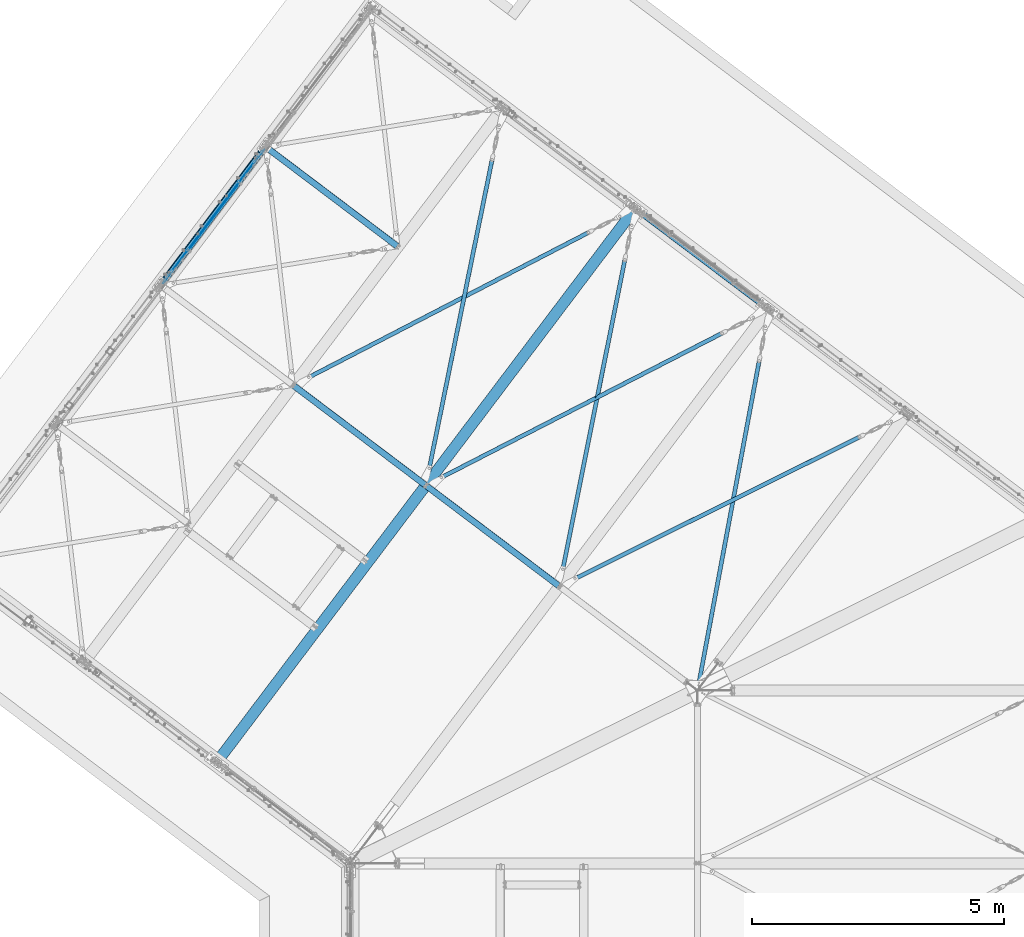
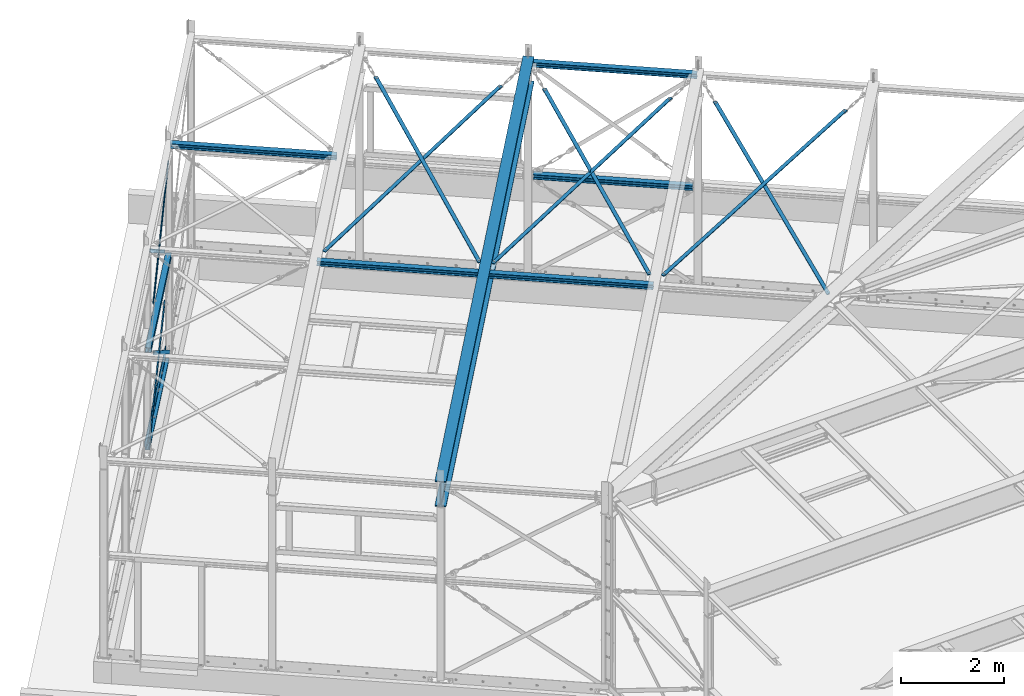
# One storey, part 23 of 476: 11 members, 7 beams, 56 openings.
"""IFC2X3 building model written with IfcOpenShell, lengths in millimetres."""

from ifc_helpers import new_model, entity, si_unit, converted_unit, frame, frame_2d, origin, origin_with_axes, origin_2d, origin_2d_with_axis, place, context, project, spatial, polyline, rectangle, circle, i_section, l_section, outline, extrude, clip, halfspace, material, element, save


model = new_model("IFC2X3")

# Units and contexts
model_context = context("Model", 3, precision=1e-09, world=origin_with_axes())
ifc_project = project(units=[si_unit("LENGTHUNIT", "METRE", prefix="MILLI"), si_unit("AREAUNIT", "SQUARE_METRE"), si_unit("VOLUMEUNIT", "CUBIC_METRE"), converted_unit("PLANEANGLEUNIT", "DEGREE", entity("IfcPlaneAngleMeasure", 0.01745329), si_unit("PLANEANGLEUNIT", "RADIAN"), dimensions=[0, 0, 0, 0, 0, 0, 0])], contexts=[model_context])

# Site, building, storey
site_placement = place(None, origin_with_axes())
site = spatial("IfcSite", under=ifc_project, at=site_placement, Name="mKR Teilneubau & Sanierung BA1 - Ostfildern", CompositionType="ELEMENT")
building_placement = place(site_placement, origin_with_axes())
building = spatial("IfcBuilding", under=site, at=building_placement, Name="Struktur 1", CompositionType="ELEMENT")
storey_placement = place(building_placement, origin_with_axes())
storey = spatial("IfcBuildingStorey", under=building, at=storey_placement, Name="Default Storey", CompositionType="ELEMENT", Elevation=0.0)

# Member, openings
ifc_material = material(Name="S235JR")
member_1_placement = place(None, frame((9726.36515466, 1840.92350468, 5436.832593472), z_axis=(0.199397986, 0.979543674, 0.027104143), x_axis=(0.018101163, 0.023972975, -0.99954872)))
member_1 = element("IfcMember", 1, at=member_1_placement, inside=storey, material=ifc_material, Name="-", ObjectType="-", context=model_context, shape_type="SweptSolid", body=[
    extrude(rectangle(XDim=15.0, YDim=80.0, at=origin_2d()), origin(), (0.0, 0.0, 1.0), 6383.478038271),
])
opening_1_placement = place(member_1_placement, frame((8.0, 0.0, 74.500999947), z_axis=(1.0, 0.0, 0.0), x_axis=(0.0, 1.0, 0.0)))
element("IfcOpeningElement", 2, at=opening_1_placement, cuts=member_1, ObjectType="Opening", context=model_context, shape_type="SweptSolid", body=[
    extrude(circle(Radius=14.501, at=frame_2d((0.0, -14.501), x_axis=(1.0, 0.0))), origin(), (0.0, 0.0, -1.0), 16.0),
])
opening_2_placement = place(member_1_placement, frame((8.000001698, -0.227777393, 6308.978854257), z_axis=(1.0, 2.06e-07, -1.03e-07), x_axis=(-2.06e-07, 1.0, 0.0)))
element("IfcOpeningElement", 3, at=opening_2_placement, cuts=member_1, ObjectType="Opening", context=model_context, shape_type="SweptSolid", body=[
    extrude(circle(Radius=14.501, at=frame_2d((0.229488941, 14.499183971), x_axis=(1.0, 0.0))), origin(), (0.0, 0.0, -1.0), 16.00000635),
])

member_2_placement = place(None, frame((12379.558941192, -163.675000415, 5436.821127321), z_axis=(0.196382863, 0.980153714, 0.027064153), x_axis=(0.01810112, 0.023972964, -0.999548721)))
member_2 = element("IfcMember", 4, at=member_2_placement, inside=storey, material=ifc_material, Name="-", ObjectType="-", context=model_context, shape_type="SweptSolid", body=[
    extrude(rectangle(XDim=15.0, YDim=80.0, at=origin_2d()), origin(), (0.0, 0.0, 1.0), 6394.783932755),
])
opening_3_placement = place(member_2_placement, frame((8.000001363, -0.182876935, 6320.284111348), z_axis=(1.0, 1.66e-07, 0.0), x_axis=(-1.66e-07, 1.0, 0.0)))
element("IfcOpeningElement", 5, at=opening_3_placement, cuts=member_2, ObjectType="Opening", context=model_context, shape_type="SweptSolid", body=[
    extrude(circle(Radius=14.501, at=frame_2d((0.184881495, 14.499821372), x_axis=(1.0, 0.0))), origin(), (0.0, 0.0, -1.0), 16.000005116),
])
opening_4_placement = place(member_2_placement, frame((8.0, 0.0, 74.500999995), z_axis=(1.0, 0.0, 0.0), x_axis=(0.0, 1.0, 0.0)))
element("IfcOpeningElement", 6, at=opening_4_placement, cuts=member_2, ObjectType="Opening", context=model_context, shape_type="SweptSolid", body=[
    extrude(circle(Radius=14.501, at=frame_2d((0.0, -14.501), x_axis=(1.0, 0.0))), origin(), (0.0, 0.0, -1.0), 16.0),
])

member_3_placement = place(None, frame((15080.524211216, -2442.8509286, 5408.079613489), z_axis=(0.183867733, 0.982582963, 0.026895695), x_axis=(0.018100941, 0.023972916, -0.999548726)))
member_3 = element("IfcMember", 7, at=member_3_placement, inside=storey, material=ifc_material, Name="-", ObjectType="-", context=model_context, shape_type="SweptSolid", body=[
    extrude(rectangle(XDim=15.0, YDim=80.0, at=origin_2d()), origin(), (0.0, 0.0, 1.0), 6655.319144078),
])
opening_5_placement = place(member_3_placement, frame((-7.5, -40.0, 0.0), z_axis=(-1.0, 0.0, 0.0), x_axis=(0.0, 0.0, 1.0)))
element("IfcOpeningElement", 8, at=opening_5_placement, cuts=member_3, ObjectType="Opening", context=model_context, shape_type="SweptSolid", body=[
    extrude(outline(polyline([(0.0, 0.0), (45.0, 0.0), (0.0, 25.0), (0.0, 0.0)])), origin(), (0.0, 0.0, -1.0), 15.0),
])
opening_6_placement = place(member_3_placement, frame((-8.0, 0.0, 75.999), z_axis=(-1.0, 0.0, 0.0), x_axis=(0.0, -1.0, 0.0)))
element("IfcOpeningElement", 9, at=opening_6_placement, cuts=member_3, ObjectType="Opening", context=model_context, shape_type="SweptSolid", body=[
    extrude(circle(Radius=9.001, at=frame_2d((0.0, 9.001), x_axis=(1.0, 0.0))), origin(), (0.0, 0.0, -1.0), 16.0),
])
opening_7_placement = place(member_3_placement, frame((-8.0, 0.0, 25.999), z_axis=(-1.0, 0.0, 0.0), x_axis=(0.0, -1.0, 0.0)))
element("IfcOpeningElement", 10, at=opening_7_placement, cuts=member_3, ObjectType="Opening", context=model_context, shape_type="SweptSolid", body=[
    extrude(circle(Radius=9.001, at=frame_2d((0.0, 9.001), x_axis=(1.0, 0.0))), origin(), (0.0, 0.0, -1.0), 16.0),
])
opening_8_placement = place(member_3_placement, frame((8.0, 0.0, 6580.818144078), z_axis=(1.0, 0.0, 0.0), x_axis=(0.0, 1.0, 0.0)))
element("IfcOpeningElement", 11, at=opening_8_placement, cuts=member_3, ObjectType="Opening", context=model_context, shape_type="SweptSolid", body=[
    extrude(circle(Radius=14.501, at=frame_2d((0.0, 14.501), x_axis=(1.0, 0.0))), origin(), (0.0, 0.0, -1.0), 16.0),
])

member_4_placement = place(None, frame((5213.481060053, -4338.507195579, 4959.248116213), z_axis=(0.602462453, 0.797581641, 0.030041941), x_axis=(-0.797941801, 0.602734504, 0.0)))
member_4 = element("IfcMember", 12, at=member_4_placement, inside=storey, material=ifc_material, Name="-", ObjectType="-", context=model_context, shape_type="Clipping", body=[
    clip(clip(extrude(i_section(OverallWidth=220.0, OverallDepth=600.0, WebThickness=12.0, FlangeThickness=19.0, FilletRadius=24.0, at=origin_2d()), origin(), (0.0, 0.0, 1.0), 14725.706361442), halfspace(frame((6775.022448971, -4970.169003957, 288.847755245), z_axis=(0.0, -0.030041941, 0.999548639), x_axis=(1.0, 0.0, 0.0)), True)), halfspace(frame((6775.022448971, -5388.142475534, 14195.565970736), z_axis=(0.0, 0.030041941, -0.999548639), x_axis=(-1.0, 0.0, 0.0)), True)),
])
opening_9_placement = place(member_4_placement, frame((-6.5, 183.024644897, 7433.369314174), z_axis=(1.0, 0.0, 0.0), x_axis=(0.0, 1.0, 1.4557e-05)))
element("IfcOpeningElement", 13, at=opening_9_placement, cuts=member_4, ObjectType="Opening", context=model_context, shape_type="SweptSolid", body=[
    extrude(circle(Radius=7.001, at=origin_2d_with_axis()), origin(), (0.0, 0.0, 1.0), 13.0),
])
opening_10_placement = place(member_4_placement, frame((-6.5, 183.02551832, 7373.36931418), z_axis=(1.0, 0.0, 0.0), x_axis=(0.0, 1.0, 1.4557e-05)))
element("IfcOpeningElement", 14, at=opening_10_placement, cuts=member_4, ObjectType="Opening", context=model_context, shape_type="SweptSolid", body=[
    extrude(circle(Radius=7.001, at=origin_2d_with_axis()), origin(), (0.0, 0.0, 1.0), 13.0),
])
opening_11_placement = place(member_4_placement, frame((6.5, 183.027078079, 14331.485111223), z_axis=(-1.0, 0.0, 0.0), x_axis=(0.0, 1.0, 0.0)))
element("IfcOpeningElement", 15, at=opening_11_placement, cuts=member_4, ObjectType="Opening", context=model_context, shape_type="SweptSolid", body=[
    extrude(circle(Radius=7.001, at=origin_2d_with_axis()), origin(), (0.0, 0.0, 1.0), 13.0),
])
opening_12_placement = place(member_4_placement, frame((6.5, 183.027078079, 14281.485111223), z_axis=(-1.0, 0.0, 0.0), x_axis=(0.0, 1.0, 0.0)))
element("IfcOpeningElement", 16, at=opening_12_placement, cuts=member_4, ObjectType="Opening", context=model_context, shape_type="SweptSolid", body=[
    extrude(circle(Radius=7.001, at=origin_2d_with_axis()), origin(), (0.0, 0.0, 1.0), 13.0),
])
opening_13_placement = place(member_4_placement, frame((-6.5, 183.02707995, 525.253577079), z_axis=(1.0, 0.0, 0.0), x_axis=(0.0, 1.0, 0.0)))
element("IfcOpeningElement", 17, at=opening_13_placement, cuts=member_4, ObjectType="Opening", context=model_context, shape_type="SweptSolid", body=[
    extrude(circle(Radius=7.001, at=origin_2d_with_axis()), origin(), (0.0, 0.0, 1.0), 13.0),
])
opening_14_placement = place(member_4_placement, frame((-6.5, 183.02707995, 475.253577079), z_axis=(1.0, 0.0, 0.0), x_axis=(0.0, 1.0, 0.0)))
element("IfcOpeningElement", 18, at=opening_14_placement, cuts=member_4, ObjectType="Opening", context=model_context, shape_type="SweptSolid", body=[
    extrude(circle(Radius=7.001, at=origin_2d_with_axis()), origin(), (0.0, 0.0, 1.0), 13.0),
])
opening_15_placement = place(member_4_placement, frame((37.999, -300.5, 14318.867080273), z_axis=(0.0, -1.0, 0.0), x_axis=(1.0, 0.0, 0.0)))
element("IfcOpeningElement", 19, at=opening_15_placement, cuts=member_4, ObjectType="Opening", context=model_context, shape_type="SweptSolid", body=[
    extrude(circle(Radius=7.001, at=frame_2d((7.001, 0.0), x_axis=(1.0, 0.0))), origin(), (0.0, 0.0, -1.0), 20.0),
])
opening_16_placement = place(member_4_placement, frame((37.999, -300.5, 14263.867080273), z_axis=(0.0, -1.0, 0.0), x_axis=(1.0, 0.0, 0.0)))
element("IfcOpeningElement", 20, at=opening_16_placement, cuts=member_4, ObjectType="Opening", context=model_context, shape_type="SweptSolid", body=[
    extrude(circle(Radius=7.001, at=frame_2d((7.001, 0.0), x_axis=(1.0, 0.0))), origin(), (0.0, 0.0, -1.0), 20.0),
])
opening_17_placement = place(member_4_placement, frame((-52.001, -300.5, 14263.867080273), z_axis=(0.0, -1.0, 0.0), x_axis=(1.0, 0.0, 0.0)))
element("IfcOpeningElement", 21, at=opening_17_placement, cuts=member_4, ObjectType="Opening", context=model_context, shape_type="SweptSolid", body=[
    extrude(circle(Radius=7.001, at=frame_2d((7.001, 0.0), x_axis=(1.0, 0.0))), origin(), (0.0, 0.0, -1.0), 20.0),
])
opening_18_placement = place(member_4_placement, frame((-52.001, -300.5, 14318.867080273), z_axis=(0.0, -1.0, 0.0), x_axis=(1.0, 0.0, 0.0)))
element("IfcOpeningElement", 22, at=opening_18_placement, cuts=member_4, ObjectType="Opening", context=model_context, shape_type="SweptSolid", body=[
    extrude(circle(Radius=7.001, at=frame_2d((7.001, 0.0), x_axis=(1.0, 0.0))), origin(), (0.0, 0.0, -1.0), 20.0),
])
opening_19_placement = place(member_4_placement, frame((-6.5, 247.888062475, 14352.955309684), z_axis=(1.0, 0.0, 0.0), x_axis=(0.0, 0.030041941, -0.999548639)))
element("IfcOpeningElement", 23, at=opening_19_placement, cuts=member_4, ObjectType="Opening", context=model_context, shape_type="SweptSolid", body=[
    extrude(circle(Radius=7.001, at=origin_2d_with_axis()), origin(), (0.0, 0.0, 1.0), 13.0),
])
opening_20_placement = place(member_4_placement, frame((-6.5, -247.888062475, 14338.054506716), z_axis=(1.0, 0.0, 0.0), x_axis=(0.0, 0.030041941, -0.999548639)))
element("IfcOpeningElement", 24, at=opening_20_placement, cuts=member_4, ObjectType="Opening", context=model_context, shape_type="SweptSolid", body=[
    extrude(circle(Radius=7.001, at=origin_2d_with_axis()), origin(), (0.0, 0.0, 1.0), 13.0),
])
opening_21_placement = place(member_4_placement, frame((-37.999, -300.5, 512.635427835), z_axis=(0.0, -1.0, 0.0), x_axis=(1.0, 0.0, 0.0)))
element("IfcOpeningElement", 25, at=opening_21_placement, cuts=member_4, ObjectType="Opening", context=model_context, shape_type="SweptSolid", body=[
    extrude(circle(Radius=7.001, at=frame_2d((-7.001, 0.0), x_axis=(1.0, 0.0))), origin(), (0.0, 0.0, -1.0), 20.0),
])
opening_22_placement = place(member_4_placement, frame((52.001, -300.5, 457.635427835), z_axis=(0.0, -1.0, 0.0), x_axis=(1.0, 0.0, 0.0)))
element("IfcOpeningElement", 26, at=opening_22_placement, cuts=member_4, ObjectType="Opening", context=model_context, shape_type="SweptSolid", body=[
    extrude(circle(Radius=7.001, at=frame_2d((-7.001, 0.0), x_axis=(1.0, 0.0))), origin(), (0.0, 0.0, -1.0), 20.0),
])
opening_23_placement = place(member_4_placement, frame((52.001, -300.5, 512.635427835), z_axis=(0.0, -1.0, 0.0), x_axis=(1.0, 0.0, 0.0)))
element("IfcOpeningElement", 27, at=opening_23_placement, cuts=member_4, ObjectType="Opening", context=model_context, shape_type="SweptSolid", body=[
    extrude(circle(Radius=7.001, at=frame_2d((-7.001, 0.0), x_axis=(1.0, 0.0))), origin(), (0.0, 0.0, -1.0), 20.0),
])
opening_24_placement = place(member_4_placement, frame((-37.999, -300.5, 457.635427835), z_axis=(0.0, -1.0, 0.0), x_axis=(1.0, 0.0, 0.0)))
element("IfcOpeningElement", 28, at=opening_24_placement, cuts=member_4, ObjectType="Opening", context=model_context, shape_type="SweptSolid", body=[
    extrude(circle(Radius=7.001, at=frame_2d((-7.001, 0.0), x_axis=(1.0, 0.0))), origin(), (0.0, 0.0, -1.0), 20.0),
])
opening_25_placement = place(member_4_placement, frame((6.5, 247.888062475, 457.683526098), z_axis=(-1.0, 0.0, 0.0), x_axis=(0.0, -0.030041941, 0.999548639)))
element("IfcOpeningElement", 29, at=opening_25_placement, cuts=member_4, ObjectType="Opening", context=model_context, shape_type="SweptSolid", body=[
    extrude(circle(Radius=7.001, at=origin_2d_with_axis()), origin(), (0.0, 0.0, 1.0), 13.0),
])
opening_26_placement = place(member_4_placement, frame((6.5, -247.888062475, 442.782723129), z_axis=(-1.0, 0.0, 0.0), x_axis=(0.0, -0.030041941, 0.999548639)))
element("IfcOpeningElement", 30, at=opening_26_placement, cuts=member_4, ObjectType="Opening", context=model_context, shape_type="SweptSolid", body=[
    extrude(circle(Radius=7.001, at=origin_2d_with_axis()), origin(), (0.0, 0.0, 1.0), 13.0),
])

# Beam
beam_1_placement = place(None, frame((6420.193752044, 8340.616325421, 5468.294697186), z_axis=(-0.797941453, 0.602734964, 0.0), x_axis=(-0.602463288, -0.797581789, -0.03002126)))
element("IfcBeam", 31, at=beam_1_placement, inside=storey, material=ifc_material, Name="-", ObjectType="-", context=model_context, shape_type="Clipping", body=[
    clip(clip(extrude(i_section(OverallWidth=120.0, OverallDepth=114.0, WebThickness=5.0, FlangeThickness=8.0, FilletRadius=12.0, at=origin_2d()), origin(), (0.0, 0.0, -1.0), 3462.017365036), halfspace(frame((10684.417833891, -5149.856194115, -3361.263843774), z_axis=(5.77e-07, 0.0, 1.0), x_axis=(0.99954926, 0.03002126, -5.77e-07)), True)), halfspace(frame((10684.419716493, -5149.856194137, -98.065871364), z_axis=(-5.77e-07, 0.0, -1.0), x_axis=(-0.99954926, -0.03002126, 5.77e-07)), True)),
])

# Beam, openings
beam_2_placement = place(None, frame((4411.606970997, 5634.459654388, 594.499999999), z_axis=(-0.602734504, -0.797941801, 0.0), x_axis=(0.797941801, -0.602734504, 0.0)))
beam_2 = element("IfcBeam", 32, at=beam_2_placement, inside=storey, material=ifc_material, Name="-", ObjectType="-", context=model_context, shape_type="SweptSolid", body=[
    extrude(l_section(Depth=250.0, Width=90.0, Thickness=10.0, FilletRadius=15.0, EdgeRadius=7.5, at=frame_2d((30.5, 29.4))), origin(), (0.0, 0.0, -1.0), 3290.000000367),
])
opening_27_placement = place(beam_2_placement, frame((-115.7, -94.5, 0.0), z_axis=(1.0, 0.0, 0.0), x_axis=(0.0, 0.0, -1.0)))
element("IfcOpeningElement", 33, at=opening_27_placement, cuts=beam_2, ObjectType="Opening", context=model_context, shape_type="SweptSolid", body=[
    extrude(outline(polyline([(85.001, 120.001), (-50.001, 120.001), (-50.001, -50.001), (85.001, -50.001), (85.001, 120.001)])), origin(), (0.0, 0.0, 1.0), 290.2),
])
opening_28_placement = place(beam_2_placement, frame((-115.7, -94.5, 0.0), z_axis=(1.0, 0.0, 0.0), x_axis=(0.0, 0.0, -1.0)))
element("IfcOpeningElement", 34, at=opening_28_placement, cuts=beam_2, ObjectType="Opening", context=model_context, shape_type="SweptSolid", body=[
    extrude(outline(polyline([(3204.999000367, -50.001), (3349.092321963, -50.001), (3349.092321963, 120.001), (3204.999000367, 120.001), (3204.999000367, -50.001)])), origin(), (0.0, 0.0, 1.0), 290.2),
])
opening_29_placement = place(beam_2_placement, frame((34.4, -95.0, -2113.999000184), z_axis=(0.0, -1.0, 0.0), x_axis=(1.0, 0.0, 0.0)))
element("IfcOpeningElement", 35, at=opening_29_placement, cuts=beam_2, ObjectType="Opening", context=model_context, shape_type="SweptSolid", body=[
    extrude(circle(Radius=6.001, at=frame_2d((0.0, -6.001), x_axis=(1.0, 0.0))), origin(), (0.0, 0.0, -1.0), 11.000000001),
])
opening_30_placement = place(beam_2_placement, frame((34.4, -95.0, -1163.999000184), z_axis=(0.0, -1.0, 0.0), x_axis=(1.0, 0.0, 0.0)))
element("IfcOpeningElement", 36, at=opening_30_placement, cuts=beam_2, ObjectType="Opening", context=model_context, shape_type="SweptSolid", body=[
    extrude(circle(Radius=6.001, at=frame_2d((0.0, -6.001), x_axis=(1.0, 0.0))), origin(), (0.0, 0.0, -1.0), 11.000000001),
])
opening_31_placement = place(beam_2_placement, frame((34.4, -95.0, -3063.999000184), z_axis=(0.0, -1.0, 0.0), x_axis=(1.0, 0.0, 0.0)))
element("IfcOpeningElement", 37, at=opening_31_placement, cuts=beam_2, ObjectType="Opening", context=model_context, shape_type="SweptSolid", body=[
    extrude(circle(Radius=6.001, at=frame_2d((0.0, -6.001), x_axis=(1.0, 0.0))), origin(), (0.0, 0.0, -1.0), 11.000000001),
])
opening_32_placement = place(beam_2_placement, frame((34.4, -95.000000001, -213.999000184), z_axis=(0.0, -1.0, 0.0), x_axis=(1.0, 0.0, 0.0)))
element("IfcOpeningElement", 38, at=opening_32_placement, cuts=beam_2, ObjectType="Opening", context=model_context, shape_type="SweptSolid", body=[
    extrude(circle(Radius=6.001, at=frame_2d((0.0, -6.001), x_axis=(1.0, 0.0))), origin(), (0.0, 0.0, -1.0), 11.000000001),
])
opening_33_placement = place(beam_2_placement, frame((-5.1, 13.5, -1645.000000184), z_axis=(-1.0, 0.0, 0.0), x_axis=(0.0, 0.0, 1.0)))
element("IfcOpeningElement", 39, at=opening_33_placement, cuts=beam_2, ObjectType="Opening", context=model_context, shape_type="SweptSolid", body=[
    extrude(circle(Radius=7.001, at=frame_2d((300.0, 0.0), x_axis=(1.0, 0.0))), origin(), (0.0, 0.0, 1.0), 11.0),
])
opening_34_placement = place(beam_2_placement, frame((-5.1, 13.5, -1645.000000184), z_axis=(-1.0, 0.0, 0.0), x_axis=(0.0, 0.0, 1.0)))
element("IfcOpeningElement", 40, at=opening_34_placement, cuts=beam_2, ObjectType="Opening", context=model_context, shape_type="SweptSolid", body=[
    extrude(circle(Radius=7.001, at=frame_2d((-300.0, 0.0), x_axis=(1.0, 0.0))), origin(), (0.0, 0.0, 1.0), 11.0),
])
opening_35_placement = place(beam_2_placement, frame((-5.1, 13.5, -1645.000000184), z_axis=(-1.0, 0.0, 0.0), x_axis=(0.0, 0.0, 1.0)))
element("IfcOpeningElement", 41, at=opening_35_placement, cuts=beam_2, ObjectType="Opening", context=model_context, shape_type="SweptSolid", body=[
    extrude(circle(Radius=7.001, at=frame_2d((900.0, 0.0), x_axis=(1.0, 0.0))), origin(), (0.0, 0.0, 1.0), 11.0),
])
opening_36_placement = place(beam_2_placement, frame((-5.1, 13.5, -1645.000000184), z_axis=(-1.0, 0.0, 0.0), x_axis=(0.0, 0.0, 1.0)))
element("IfcOpeningElement", 42, at=opening_36_placement, cuts=beam_2, ObjectType="Opening", context=model_context, shape_type="SweptSolid", body=[
    extrude(circle(Radius=7.001, at=frame_2d((-900.0, 0.0), x_axis=(1.0, 0.0))), origin(), (0.0, 0.0, 1.0), 11.0),
])
opening_37_placement = place(beam_2_placement, frame((-5.1, 13.5, -1645.000000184), z_axis=(-1.0, 0.0, 0.0), x_axis=(0.0, 0.0, 1.0)))
element("IfcOpeningElement", 43, at=opening_37_placement, cuts=beam_2, ObjectType="Opening", context=model_context, shape_type="SweptSolid", body=[
    extrude(circle(Radius=7.001, at=frame_2d((1500.0, 0.0), x_axis=(1.0, 0.0))), origin(), (0.0, 0.0, 1.0), 11.0),
])
opening_38_placement = place(beam_2_placement, frame((-5.1, 13.5, -1645.000000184), z_axis=(-1.0, 0.0, 0.0), x_axis=(0.0, 0.0, 1.0)))
element("IfcOpeningElement", 44, at=opening_38_placement, cuts=beam_2, ObjectType="Opening", context=model_context, shape_type="SweptSolid", body=[
    extrude(circle(Radius=7.001, at=frame_2d((-1500.0, 0.0), x_axis=(1.0, 0.0))), origin(), (0.0, 0.0, 1.0), 11.0),
])

# Member, openings
member_5_placement = place(None, frame((7290.308450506, 3681.027317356, 5436.832603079), z_axis=(-0.887697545, -0.459628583, -0.027104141), x_axis=(0.018110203, 0.023966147, -0.99954872)))
member_5 = element("IfcMember", 45, at=member_5_placement, inside=storey, material=ifc_material, Name="-", ObjectType="-", context=model_context, shape_type="SweptSolid", body=[
    extrude(rectangle(XDim=15.0, YDim=80.0, at=origin_2d()), origin(), (0.0, 0.0, -1.0), 6383.478038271),
])
opening_39_placement = place(member_5_placement, frame((8.0, 0.0, -59.999999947), z_axis=(-1.0, 0.0, 0.0), x_axis=(0.0, 0.0, 1.0)))
element("IfcOpeningElement", 46, at=opening_39_placement, cuts=member_5, ObjectType="Opening", context=model_context, shape_type="SweptSolid", body=[
    extrude(circle(Radius=14.501, at=origin_2d_with_axis()), origin(), (0.0, 0.0, 1.0), 16.0),
])
opening_40_placement = place(member_5_placement, frame((8.000003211, 0.001711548, -6323.478038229), z_axis=(-1.0, -2.06e-07, -1.03e-07), x_axis=(0.0, 0.015825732, -0.999874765)))
element("IfcOpeningElement", 47, at=opening_40_placement, cuts=member_5, ObjectType="Opening", context=model_context, shape_type="SweptSolid", body=[
    extrude(circle(Radius=14.501, at=origin_2d_with_axis()), origin(), (0.0, 0.0, 1.0), 16.00000635),
])

member_6_placement = place(None, frame((9923.920264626, 1691.220283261, 5436.821137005), z_axis=(-0.88910874, -0.456895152, -0.027064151), x_axis=(0.018110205, 0.023966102, -0.999548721)))
member_6 = element("IfcMember", 48, at=member_6_placement, inside=storey, material=ifc_material, Name="-", ObjectType="-", context=model_context, shape_type="SweptSolid", body=[
    extrude(rectangle(XDim=15.0, YDim=80.0, at=origin_2d()), origin(), (0.0, 0.0, -1.0), 6394.783932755),
])
opening_41_placement = place(member_6_placement, frame((8.0, 0.0, -59.999999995), z_axis=(-1.0, 0.0, 0.0), x_axis=(0.0, 0.0, 1.0)))
element("IfcOpeningElement", 49, at=opening_41_placement, cuts=member_6, ObjectType="Opening", context=model_context, shape_type="SweptSolid", body=[
    extrude(circle(Radius=14.501, at=origin_2d_with_axis()), origin(), (0.0, 0.0, 1.0), 16.0),
])
opening_42_placement = place(member_6_placement, frame((8.000002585, 0.002004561, -6334.78393272), z_axis=(-1.0, -1.66e-07, 0.0), x_axis=(0.0, 0.012749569, -0.999918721)))
element("IfcOpeningElement", 50, at=opening_42_placement, cuts=member_6, ObjectType="Opening", context=model_context, shape_type="SweptSolid", body=[
    extrude(circle(Radius=14.501, at=origin_2d_with_axis()), origin(), (0.0, 0.0, 1.0), 16.000005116),
])

member_7_placement = place(None, frame((12579.200465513, -317.022849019, 5436.760059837), z_axis=(-0.894867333, -0.445521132, -0.026895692), x_axis=(0.018110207, 0.023965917, -0.999548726)))
member_7 = element("IfcMember", 51, at=member_7_placement, inside=storey, material=ifc_material, Name="-", ObjectType="-", context=model_context, shape_type="SweptSolid", body=[
    extrude(rectangle(XDim=15.0, YDim=80.0, at=origin_2d()), origin(), (0.0, 0.0, -1.0), 6443.73079805),
])
opening_43_placement = place(member_7_placement, frame((8.0, 0.0, -59.999999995), z_axis=(-1.0, 0.0, 0.0), x_axis=(0.0, 0.0, -1.0)))
element("IfcOpeningElement", 52, at=opening_43_placement, cuts=member_7, ObjectType="Opening", context=model_context, shape_type="SweptSolid", body=[
    extrude(circle(Radius=14.501, at=origin_2d_with_axis()), origin(), (0.0, 0.0, 1.0), 16.0),
])
opening_44_placement = place(member_7_placement, frame((8.0, 0.0, -6383.73079805), z_axis=(-1.0, 0.0, 0.0), x_axis=(0.0, 0.0, -1.0)))
element("IfcOpeningElement", 53, at=opening_44_placement, cuts=member_7, ObjectType="Opening", context=model_context, shape_type="SweptSolid", body=[
    extrude(circle(Radius=14.501, at=origin_2d_with_axis()), origin(), (0.0, 0.0, 1.0), 16.0),
])

member_8_placement = place(None, frame((4572.930330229, 5738.695648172, 5163.300122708), z_axis=(-0.492427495, -0.651909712, 0.576653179), x_axis=(0.797941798, -0.602734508, 0.0)))
member_8 = element("IfcMember", 54, at=member_8_placement, inside=storey, material=ifc_material, Name="-", ObjectType="-", context=model_context, shape_type="SweptSolid", body=[
    extrude(rectangle(XDim=15.0, YDim=80.0, at=origin_2d()), origin(), (0.0, 0.0, -1.0), 2884.589981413),
])
opening_45_placement = place(member_8_placement, frame((8.0, 1.272e-06, -59.999999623), z_axis=(-1.0, 0.0, 0.0), x_axis=(0.0, 0.0, 1.0)))
element("IfcOpeningElement", 55, at=opening_45_placement, cuts=member_8, ObjectType="Opening", context=model_context, shape_type="SweptSolid", body=[
    extrude(circle(Radius=16.001, at=origin_2d_with_axis()), origin(), (0.0, 0.0, 1.0), 16.0),
])
opening_46_placement = place(member_8_placement, frame((8.0, 0.0, -2824.589981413), z_axis=(-1.0, 0.0, 0.0), x_axis=(0.0, 0.0, 1.0)))
element("IfcOpeningElement", 56, at=opening_46_placement, cuts=member_8, ObjectType="Opening", context=model_context, shape_type="SweptSolid", body=[
    extrude(circle(Radius=16.001, at=origin_2d_with_axis()), origin(), (0.0, 0.0, 1.0), 16.0),
])

member_9_placement = place(None, frame((4912.696636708, 6188.501852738, 3518.453872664), z_axis=(-0.485457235, -0.642682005, -0.592698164), x_axis=(0.797941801, -0.602734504, 0.0)))
member_9 = element("IfcMember", 57, at=member_9_placement, inside=storey, material=ifc_material, Name="-", ObjectType="-", context=model_context, shape_type="SweptSolid", body=[
    extrude(rectangle(XDim=15.0, YDim=80.0, at=origin_2d()), origin(), (0.0, 0.0, -1.0), 2923.801899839),
])
opening_47_placement = place(member_9_placement, frame((8.0, 0.0, -2863.801899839), z_axis=(-1.0, 0.0, 0.0), x_axis=(0.0, 0.0, 1.0)))
element("IfcOpeningElement", 58, at=opening_47_placement, cuts=member_9, ObjectType="Opening", context=model_context, shape_type="SweptSolid", body=[
    extrude(circle(Radius=16.001, at=origin_2d_with_axis()), origin(), (0.0, 0.0, 1.0), 16.0),
])
opening_48_placement = place(member_9_placement, frame((8.0, 0.0, -60.0), z_axis=(-1.0, 0.0, 0.0), x_axis=(0.0, 0.0, 1.0)))
element("IfcOpeningElement", 59, at=opening_48_placement, cuts=member_9, ObjectType="Opening", context=model_context, shape_type="SweptSolid", body=[
    extrude(circle(Radius=16.001, at=origin_2d_with_axis()), origin(), (0.0, 0.0, 1.0), 16.0),
])

member_10_placement = place(None, frame((6447.224959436, 8220.017029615, 599.845734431), z_axis=(0.497006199, 0.657971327, -0.565737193), x_axis=(0.797941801, -0.602734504, 0.0)))
member_10 = element("IfcMember", 60, at=member_10_placement, inside=storey, material=ifc_material, Name="-", ObjectType="-", context=model_context, shape_type="SweptSolid", body=[
    extrude(rectangle(XDim=15.0, YDim=80.0, at=origin_2d()), origin(), (0.0, 0.0, -1.0), 3069.823174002),
])
opening_49_placement = place(member_10_placement, frame((8.0, 0.0, -60.029463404), z_axis=(-1.0, 0.0, 0.0), x_axis=(0.0, 0.0, -1.0)))
element("IfcOpeningElement", 61, at=opening_49_placement, cuts=member_10, ObjectType="Opening", context=model_context, shape_type="SweptSolid", body=[
    extrude(circle(Radius=16.001, at=origin_2d_with_axis()), origin(), (0.0, 0.0, 1.0), 16.0),
])
opening_50_placement = place(member_10_placement, frame((8.0, 0.0, -3009.770984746), z_axis=(-1.0, 0.0, 0.0), x_axis=(0.0, 0.0, -1.0)))
element("IfcOpeningElement", 62, at=opening_50_placement, cuts=member_10, ObjectType="Opening", context=model_context, shape_type="SweptSolid", body=[
    extrude(circle(Radius=16.001, at=origin_2d_with_axis()), origin(), (0.0, 0.0, 1.0), 16.0),
])

member_11_placement = place(None, frame((5989.879143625, 7614.550872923, 2336.563094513), z_axis=(0.4970062, 0.657971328, 0.56573719), x_axis=(0.797941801, -0.602734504, 0.0)))
member_11 = element("IfcMember", 63, at=member_11_placement, inside=storey, material=ifc_material, Name="-", ObjectType="-", context=model_context, shape_type="SweptSolid", body=[
    extrude(rectangle(XDim=15.0, YDim=80.0, at=origin_2d()), origin(), (0.0, 0.0, -1.0), 3069.786873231),
])
opening_51_placement = place(member_11_placement, frame((8.0, 0.510150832, -60.059394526), z_axis=(-1.0, 0.0, 0.0), x_axis=(0.0, 0.0, -1.0)))
element("IfcOpeningElement", 64, at=opening_51_placement, cuts=member_11, ObjectType="Opening", context=model_context, shape_type="SweptSolid", body=[
    extrude(circle(Radius=16.001, at=origin_2d_with_axis()), origin(), (0.0, 0.0, 1.0), 16.0),
])
opening_52_placement = place(member_11_placement, frame((8.0, 0.0, -3009.80115748), z_axis=(-1.0, 0.0, 0.0), x_axis=(0.0, 0.0, -1.0)))
element("IfcOpeningElement", 65, at=opening_52_placement, cuts=member_11, ObjectType="Opening", context=model_context, shape_type="SweptSolid", body=[
    extrude(circle(Radius=16.001, at=origin_2d_with_axis()), origin(), (0.0, 0.0, 1.0), 16.0),
])

# Beams
beam_3_placement = place(None, frame((6533.319035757, 8358.880926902, 2912.000000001), z_axis=(0.602734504, 0.797941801, 0.0), x_axis=(0.797941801, -0.602734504, 0.0)))
element("IfcBeam", 66, at=beam_3_placement, inside=storey, material=ifc_material, Name="-", ObjectType="-", context=model_context, shape_type="Clipping", body=[
    clip(clip(extrude(i_section(OverallWidth=120.0, OverallDepth=114.0, WebThickness=5.0, FlangeThickness=8.0, FilletRadius=12.0, at=origin_2d()), origin(), (0.0, 0.0, -1.0), 3615.51737069), halfspace(frame((-175.022404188, 2912.000000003, -182.759685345), z_axis=(0.0, 0.0, -1.0), x_axis=(1.0, 0.0, 0.0)), True)), halfspace(frame((-175.022404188, 2912.000000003, -3432.757685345), z_axis=(0.0, 0.0, 1.0), x_axis=(-1.0, 0.0, 0.0)), True)),
])
beam_4_placement = place(None, frame((13763.250443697, 7117.576725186, 2912.000000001), z_axis=(-0.797941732, 0.602734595, 0.0), x_axis=(-0.602734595, -0.797941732, 0.0)))
element("IfcBeam", 67, at=beam_4_placement, inside=storey, material=ifc_material, Name="-", ObjectType="-", context=model_context, shape_type="Clipping", body=[
    clip(clip(extrude(i_section(OverallWidth=120.0, OverallDepth=114.0, WebThickness=5.0, FlangeThickness=8.0, FilletRadius=12.0, at=origin_2d()), origin(), (0.0, 0.0, -1.0), 3491.646517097), halfspace(frame((13974.997901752, -2912.000000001, -182.76126912), z_axis=(-1.13e-07, 0.0, -1.0), x_axis=(-1.0, 0.0, 1.13e-07)), True)), halfspace(frame((13974.997547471, -2912.000000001, -3308.888415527), z_axis=(1.13e-07, 0.0, 1.0), x_axis=(1.0, 0.0, -1.13e-07)), True)),
])
beam_5_placement = place(None, frame((6971.174593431, 3600.802537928, 5364.60218564), z_axis=(-0.797941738, 0.602734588, 0.0), x_axis=(-0.602462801, -0.797581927, -0.030027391)))
element("IfcBeam", 68, at=beam_5_placement, inside=storey, material=ifc_material, Name="-", ObjectType="-", context=model_context, shape_type="Clipping", body=[
    clip(clip(extrude(i_section(OverallWidth=120.0, OverallDepth=114.0, WebThickness=5.0, FlangeThickness=8.0, FilletRadius=12.0, at=origin_2d()), origin(), (0.0, 0.0, -1.0), 3465.517423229), halfspace(frame((7232.892693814, -5149.739418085, -3364.758531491), z_axis=(1.05e-07, 0.0, 1.0), x_axis=(0.999549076, 0.030027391, -1.05e-07)), True)), halfspace(frame((7232.893035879, -5149.739418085, -100.760479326), z_axis=(-1.05e-07, 0.0, -1.0), x_axis=(-0.999549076, -0.030027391, 1.05e-07)), True)),
])
beam_6_placement = place(None, frame((9604.38236938, 1611.778366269, 5364.602175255), z_axis=(-0.797941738, 0.602734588, 0.0), x_axis=(-0.602462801, -0.797581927, -0.030027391)))
element("IfcBeam", 69, at=beam_6_placement, inside=storey, material=ifc_material, Name="-", ObjectType="-", context=model_context, shape_type="Clipping", body=[
    clip(clip(extrude(i_section(OverallWidth=120.0, OverallDepth=114.0, WebThickness=5.0, FlangeThickness=8.0, FilletRadius=12.0, at=origin_2d()), origin(), (0.0, 0.0, -1.0), 3491.646512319), halfspace(frame((7232.892345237, -5149.739418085, -3390.887625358), z_axis=(1.05e-07, 0.0, 1.0), x_axis=(0.999549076, 0.030027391, -1.05e-07)), True)), halfspace(frame((7232.892690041, -5149.739418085, -100.760478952), z_axis=(-1.05e-07, 0.0, -1.0), x_axis=(-0.999549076, -0.030027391, 1.05e-07)), True)),
])

# Beam, openings
beam_7_placement = place(None, frame((13763.250501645, 7117.576681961, 5571.987171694), z_axis=(-0.797941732, 0.602734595, 0.0), x_axis=(-0.602462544, -0.797581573, -0.030041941)))
beam_7 = element("IfcBeam", 70, at=beam_7_placement, inside=storey, material=ifc_material, Name="-", ObjectType="-", context=model_context, shape_type="Clipping", body=[
    clip(clip(extrude(i_section(OverallWidth=120.0, OverallDepth=114.0, WebThickness=5.0, FlangeThickness=8.0, FilletRadius=12.0, at=origin_2d()), origin(), (0.0, 0.0, -1.0), 3491.64651639), halfspace(frame((14136.083455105, -5149.636124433, -100.761215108), z_axis=(-1.13e-07, 0.0, -1.0), x_axis=(-0.999548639, -0.030041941, 1.13e-07)), True)), halfspace(frame((14136.083082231, -5149.636124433, -3390.888361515), z_axis=(1.13e-07, 0.0, 1.0), x_axis=(0.999548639, 0.030041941, -1.13e-07)), True)),
])
opening_53_placement = place(beam_7_placement, frame((0.0, -1.332627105, -82.758685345), z_axis=(0.0, 1.0, 0.0), x_axis=(-1.13e-07, 0.0, -1.0)))
element("IfcOpeningElement", 71, at=opening_53_placement, cuts=beam_7, ObjectType="Opening", context=model_context, shape_type="SweptSolid", body=[
    extrude(outline(polyline([(79.999927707, 44.999990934), (79.999927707, 75.000004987), (17.999927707, 75.000004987), (17.999927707, 44.999990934), (79.999927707, 44.999990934)])), origin(), (0.0, 0.0, 1.0), 59.665254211),
])
opening_54_placement = place(beam_7_placement, frame((0.0, -58.353598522, -82.758685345), z_axis=(0.0, 1.0, 0.0), x_axis=(-1.13e-07, 0.0, -1.0)))
element("IfcOpeningElement", 72, at=opening_54_placement, cuts=beam_7, ObjectType="Opening", context=model_context, shape_type="SweptSolid", body=[
    extrude(outline(polyline([(79.999927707, 44.999990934), (79.999927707, 75.000004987), (17.999927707, 75.000004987), (17.999927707, 44.999990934), (79.999927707, 44.999990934)])), origin(), (0.0, 0.0, 1.0), 59.707197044),
])
opening_55_placement = place(beam_7_placement, frame((0.0, 58.353598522, -3408.887831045), z_axis=(0.0, -1.0, 0.0), x_axis=(1.13e-07, 0.0, 1.0)))
element("IfcOpeningElement", 73, at=opening_55_placement, cuts=beam_7, ObjectType="Opening", context=model_context, shape_type="SweptSolid", body=[
    extrude(outline(polyline([(80.000071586, 45.000009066), (80.000071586, 75.000009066), (18.000071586, 75.000009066), (18.000071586, 45.000009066), (80.000071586, 45.000009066)])), origin(), (0.0, 0.0, 1.0), 59.707197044),
])
opening_56_placement = place(beam_7_placement, frame((0.0, 1.332627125, -3408.887831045), z_axis=(0.0, -1.0, 0.0), x_axis=(1.13e-07, 0.0, 1.0)))
element("IfcOpeningElement", 74, at=opening_56_placement, cuts=beam_7, ObjectType="Opening", context=model_context, shape_type="SweptSolid", body=[
    extrude(outline(polyline([(80.000071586, 45.000009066), (80.000071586, 75.000009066), (18.000071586, 75.000009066), (18.000071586, 45.000009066), (80.000071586, 45.000009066)])), origin(), (0.0, 0.0, 1.0), 59.665254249),
])

save(model, "model.ifc")
